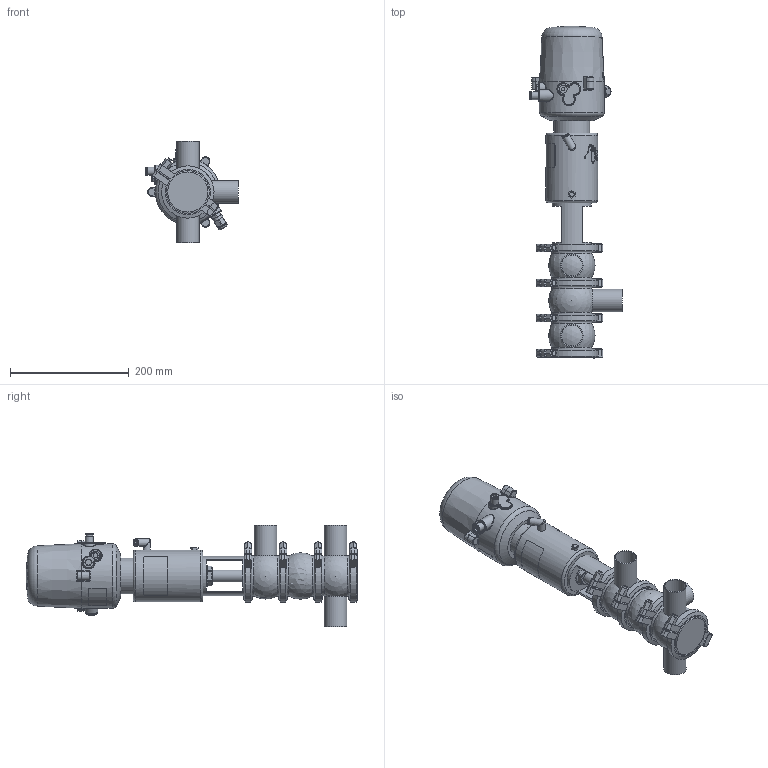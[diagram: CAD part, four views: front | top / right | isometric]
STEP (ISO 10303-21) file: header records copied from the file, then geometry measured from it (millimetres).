
FILE_DESCRIPTION (( 'STEP AP214' ), '1' );
FILE_NAME ('INNOVA L S W OD 1½ T1 AS NC & C-TOP S_10.241.16.0058.STEP', '2024-08-06T12:28:25', ( '' ), ( '' ), 'SwSTEP 2.0', 'SolidWorks 2023', '' );
FILE_SCHEMA (( 'AUTOMOTIVE_DESIGN' ));
Length unit declared in the file: millimetre
Products named in the file (9): INNOVA L S W OD 1½ T1 AS NC & C-TOP S_10.241.16.0058; 10.240.15.0006_OD 1½"; 10.240.15.0007_OD 1½"; 10.240.15.0001_DN 040; 10.240.15.0010_DN 040; 10.426.15.0001_C-TOP S - 1 EV; 10.240.15.0014_T1 AS P180; 10.240.15.0017_Estàndard; 10.241.15.0001_DIN 040
Assembly tree (12 placements, depth 2):
  INNOVA L S W OD 1½ T1 AS NC & C-TOP S_10.241.16.0058
    10.240.15.0006_OD 1½"  x2
    10.240.15.0007_OD 1½"
    10.240.15.0010_DN 040
    10.240.15.0014_T1 AS P180
    10.240.15.0017_Estàndard
    10.426.15.0001_C-TOP S - 1 EV
    10.240.15.0001_DN 040  x4
    10.241.15.0001_DIN 040
Bounding box: 156 x 558.07 x 170 mm (x, y, z)
Volume: 3189203.7 mm3; surface area: 365854.8 mm2
Topology: 13 solids, 13 shells, 1311 faces, 3189 edges, 2115 vertices
Faces by surface type: plane 478, cylinder 405, cone 221, bspline 160, torus 36, sphere 11
Full cylindrical faces by diameter (mm): 0.371 x17, 0.512 x16, 0.658 x16, 0.795 x16, 0.94 x15, 1.098 x15, 1.241 x13, 1.382 x13, 1.523 x11, 1.669 x10, 2.201 x1, 4 x2, 5.5 x2, 6 x2, 6.15 x1, 8 x10, 8.5 x1, 10 x1, 10.5 x1, 11 x2, 12.5 x3, 13 x2, 13.5 x2, 16 x1, 17 x3, 20 x3, 20.5 x1, 22 x2, 31 x1, 34.5 x3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
Entity records: 57023 total; most frequent: CARTESIAN_POINT 26677, ORIENTED_EDGE 4516, DIRECTION 3677, EDGE_CURVE 2258, VERTEX_POINT 1609, EDGE_LOOP 1579, AXIS2_PLACEMENT_3D 1510, FACE_OUTER_BOUND 1339
